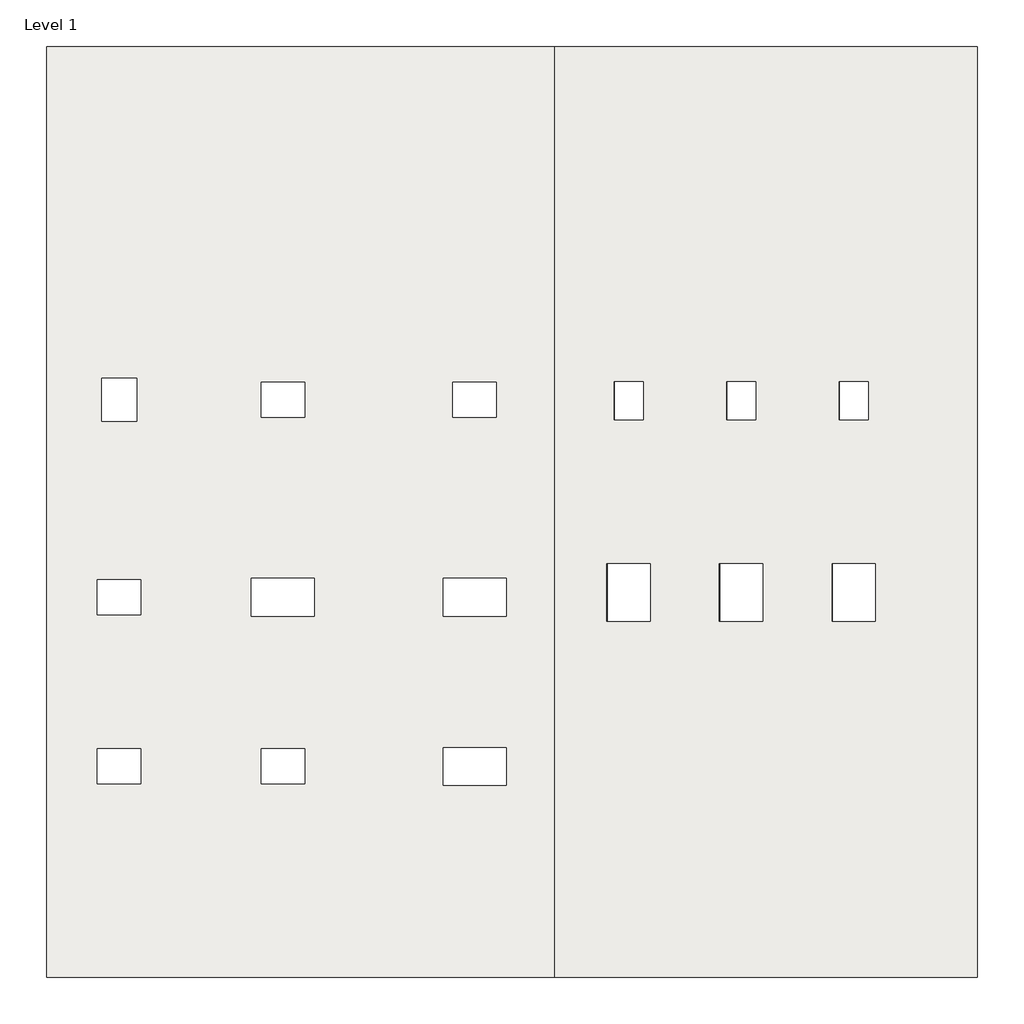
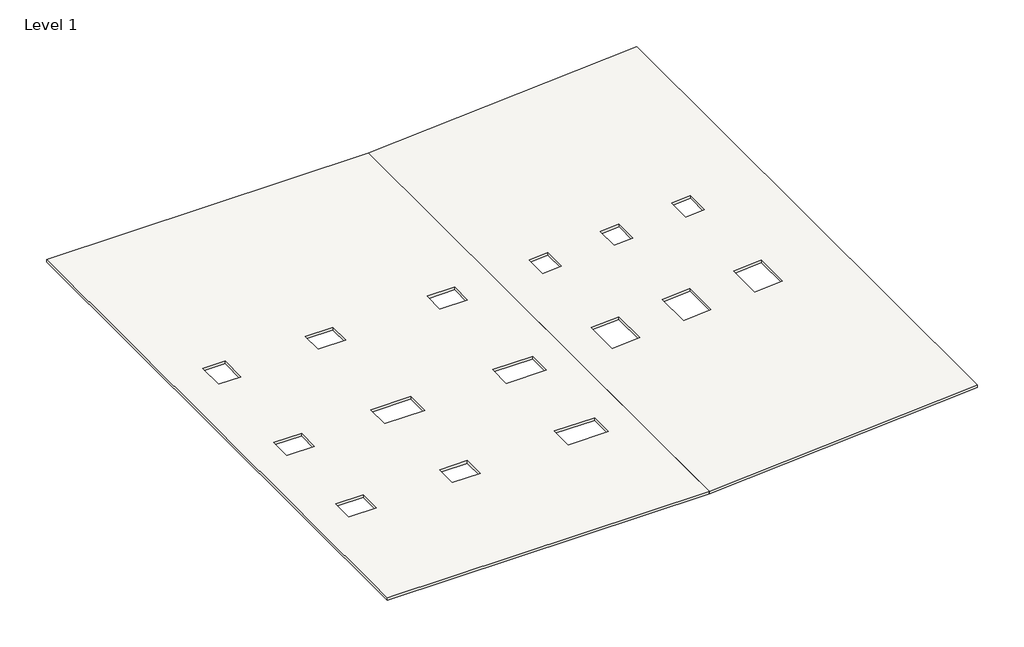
# One storey, incomplete: 1 roof, 1 slab.
"""IFC4 building model written with IfcOpenShell, lengths in millimetres."""

from ifc_helpers import new_model, si_unit, frame, origin, place, context, project, spatial, polyline, outline, extrude, faceted_brep, element, save

model = new_model("IFC4")

# Units and contexts
model_context = context("Model", 3, world=origin())
ifc_project = project(units=[si_unit("LENGTHUNIT", "METRE", prefix="MILLI")], contexts=[model_context])

# Site, building, storey
site = spatial("IfcSite", under=ifc_project)
building = spatial("IfcBuilding", under=site)
storey = spatial("IfcBuildingStorey", under=building, Name="Level 1", Elevation=0.0)

# Roof
placement = place(None, origin())
element("IfcRoof", 1, ObjectType="Cold Roof - Concrete ", at=placement, inside=storey, context=model_context, shape_type="Brep", body=[
    faceted_brep([(3089.7148585, 17587.8536809, -150.3662847), (18089.7148585, 17587.8536809, 898.5358944), (18089.7148585, -15412.1463191, 898.5358944), (3089.7148585, -15412.1463191, -150.3662847), (5216.4243997, 4359.0622889, -1.6522666), (6253.891012, 4359.0622889, 70.8944661), (6253.891012, 5699.0622889, 70.8944661), (5216.4243997, 5699.0622889, -1.6522666), (4963.6152162, -2786.9187194, -19.3304068), (6499.8638536, -2786.9187194, 88.0945628), (6499.8638536, -746.9187194, 88.0945628), (4963.6152162, -746.9187194, -19.3304068), (9206.6806007, 4359.0622889, 277.3736284), (10244.147213, 4359.0622889, 349.9203611), (10244.147213, 5699.0622889, 349.9203611), (9206.6806007, 5699.0622889, 277.3736284), (8953.8714172, -2786.9187194, 259.6954882), (10490.1200546, -2786.9187194, 367.1204577), (10490.1200546, -746.9187194, 367.1204577), (8953.8714172, -746.9187194, 259.6954882), (13196.9368018, 4359.0622889, 556.3995234), (14234.403414, 4359.0622889, 628.9462561), (14234.403414, 5699.0622889, 628.9462561), (13196.9368018, 5699.0622889, 556.3995234), (12944.1276183, -2786.9187194, 538.7213832), (14480.3762557, -2786.9187194, 646.1463527), (14480.3762557, -746.9187194, 646.1463527), (12944.1276183, -746.9187194, 538.7213832), (3089.7148585, 17587.8536809, 0.0), (3089.7148585, -15412.1463191, 0.0), (18089.7148585, -15412.1463191, 1048.9021792), (18089.7148585, 17587.8536809, 1048.9021792), (6243.4275409, 4359.0622889, 220.5290737), (5205.9609286, 4359.0622889, 147.982341), (5205.9609286, 5699.0622889, 147.982341), (6243.4275409, 5699.0622889, 220.5290737), (6489.4003825, -2786.9187194, 237.7291703), (4953.1517451, -2786.9187194, 130.3042007), (4953.1517451, -746.9187194, 130.3042007), (6489.4003825, -746.9187194, 237.7291703), (10233.6837419, 4359.0622889, 499.5549686), (9196.2171297, 4359.0622889, 427.0082359), (9196.2171297, 5699.0622889, 427.0082359), (10233.6837419, 5699.0622889, 499.5549686), (10479.6565836, -2786.9187194, 516.7550653), (8943.4079462, -2786.9187194, 409.3300957), (8943.4079462, -746.9187194, 409.3300957), (10479.6565836, -746.9187194, 516.7550653), (14223.939943, 4359.0622889, 778.5808636), (13186.4733307, 4359.0622889, 706.0341309), (13186.4733307, 5699.0622889, 706.0341309), (14223.939943, 5699.0622889, 778.5808636), (14469.9127846, -2786.9187194, 795.7809603), (12933.6641472, -2786.9187194, 688.3559907), (12933.6641472, -746.9187194, 688.3559907), (14469.9127846, -746.9187194, 795.7809603)], [[[0, 1, 2, 3], [4, 5, 6, 7], [8, 9, 10, 11], [12, 13, 14, 15], [16, 17, 18, 19], [20, 21, 22, 23], [24, 25, 26, 27]], [[28, 29, 30, 31], [32, 33, 34, 35], [36, 37, 38, 39], [40, 41, 42, 43], [44, 45, 46, 47], [48, 49, 50, 51], [52, 53, 54, 55]], [[29, 28, 0, 3]], [[1, 0, 28, 31]], [[3, 2, 30, 29]], [[2, 1, 31, 30]], [[4, 33, 32, 5]], [[5, 32, 35, 6]], [[6, 35, 34, 7]], [[33, 4, 7, 34]], [[8, 37, 36, 9]], [[9, 36, 39, 10]], [[10, 39, 38, 11]], [[37, 8, 11, 38]], [[12, 41, 40, 13]], [[13, 40, 43, 14]], [[14, 43, 42, 15]], [[41, 12, 15, 42]], [[16, 45, 44, 17]], [[17, 44, 47, 18]], [[18, 47, 46, 19]], [[45, 16, 19, 46]], [[20, 49, 48, 21]], [[21, 48, 51, 22]], [[22, 51, 50, 23]], [[49, 20, 23, 50]], [[24, 53, 52, 25]], [[25, 52, 55, 26]], [[26, 55, 54, 27]], [[53, 24, 27, 54]]]),
])

# Slab
element("IfcSlab", 2, ObjectType="Generic 150mm", at=placement, inside=storey, context=model_context, shape_type="SweptSolid", body=[
    extrude(outline(polyline([(-14910.2851415, 17587.8536809), (3089.7148585, 17587.8536809), (3089.7148585, -15412.1463191), (-14910.2851415, -15412.1463191), (-14910.2851415, 17587.8536809)]), holes=[polyline([(-11715.0515991, 5837.9119823), (-12955.0515991, 5837.9119823), (-12955.0515991, 4297.4119823), (-11715.0515991, 4297.4119823), (-11715.0515991, 5837.9119823)]), polyline([(-5765.0515991, 4447.9119823), (-5765.0515991, 5687.9119823), (-7305.5515991, 5687.9119823), (-7305.5515991, 4447.9119823), (-5765.0515991, 4447.9119823)]), polyline([(1034.9484009, 4447.9119823), (1034.9484009, 5687.9119823), (-505.5515991, 5687.9119823), (-505.5515991, 4447.9119823), (1034.9484009, 4447.9119823)]), polyline([(-11565.0515991, -2552.0880177), (-11565.0515991, -1312.0880177), (-13105.5515991, -1312.0880177), (-13105.5515991, -2552.0880177), (-11565.0515991, -2552.0880177)]), polyline([(-11565.0515991, -8552.0880177), (-11565.0515991, -7312.0880177), (-13105.5515991, -7312.0880177), (-13105.5515991, -8552.0880177), (-11565.0515991, -8552.0880177)]), polyline([(-5765.0515991, -8552.0880177), (-5765.0515991, -7312.0880177), (-7305.5515991, -7312.0880177), (-7305.5515991, -8552.0880177), (-5765.0515991, -8552.0880177)]), polyline([(-5415.0515991, -2602.0880177), (-5415.0515991, -1262.0880177), (-7655.5515991, -1262.0880177), (-7655.5515991, -2602.0880177), (-5415.0515991, -2602.0880177)]), polyline([(1384.9484009, -2602.0880177), (1384.9484009, -1262.0880177), (-855.5515991, -1262.0880177), (-855.5515991, -2602.0880177), (1384.9484009, -2602.0880177)]), polyline([(1384.9484009, -8602.0880177), (1384.9484009, -7262.0880177), (-855.5515991, -7262.0880177), (-855.5515991, -8602.0880177), (1384.9484009, -8602.0880177)])]), frame((0.0, 0.0, -150.0), z_axis=(0.0, 0.0, 1.0), x_axis=(1.0, 0.0, 0.0)), (0.0, 0.0, 1.0), 150.0),
])

save(model, "model.ifc")
